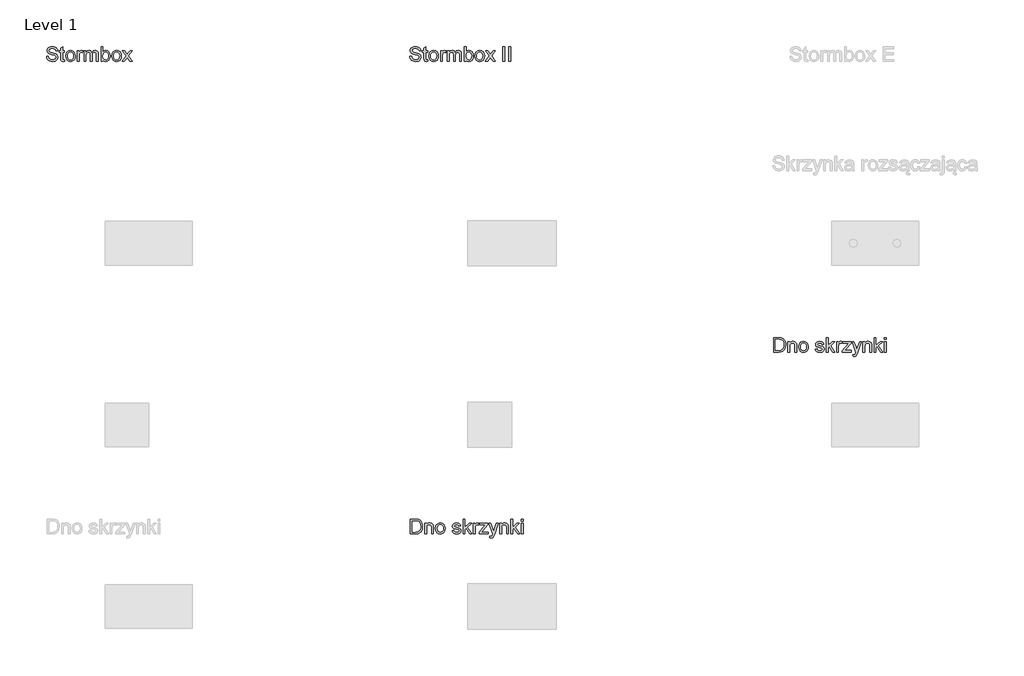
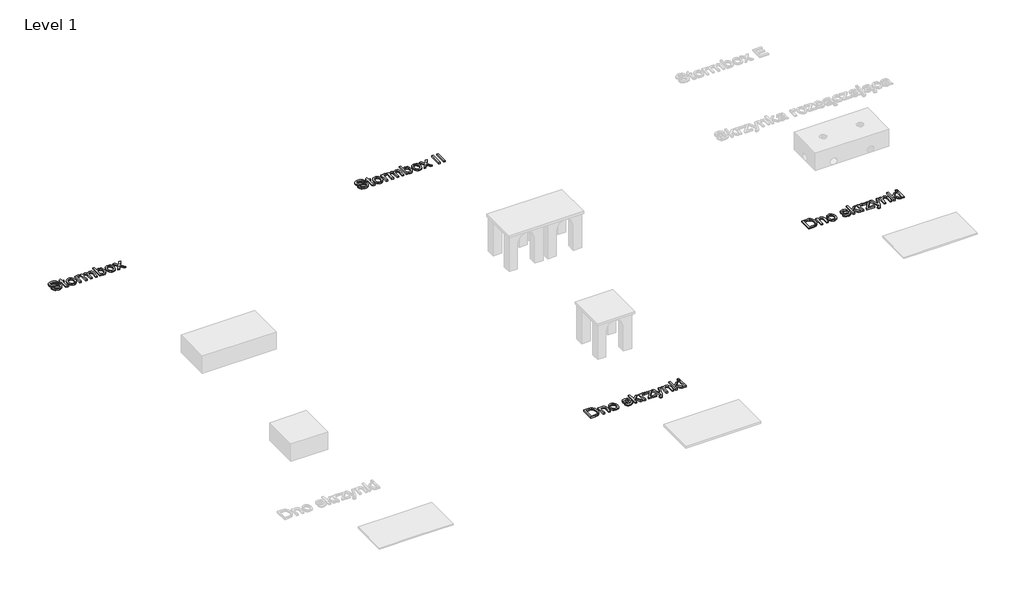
# One storey, part 4 of 5: 4 proxies.
"""IFC4 building model written with IfcOpenShell, lengths in millimetres."""

from ifc_helpers import new_model, si_unit, origin, origin_with_axes, place, context, project, spatial, polyline, outline, extrude, element, save

model = new_model("IFC4")

# Units and contexts
model_context = context("Model", 3, world=origin())
ifc_project = project(units=[si_unit("LENGTHUNIT", "METRE", prefix="MILLI")], contexts=[model_context])

# Site, building, storey
site = spatial("IfcSite", under=ifc_project)
building = spatial("IfcBuilding", under=site)
storey = spatial("IfcBuildingStorey", under=building, Name="Level 1", Elevation=0.0)

# Proxies
placement = place(None, origin())
element("IfcBuildingElementProxy", 1, Name="200mm Arial", ObjectType="200mm Arial", at=placement, inside=storey, context=model_context, shape_type="SweptSolid", body=[
    extrude(outline(polyline([(-17340.1100864, 2459.5263231), (-17314.9960089, 2459.5263231), (-17306.902605, 2434.3877201), (-17298.7724129, 2425.4972385), (-17287.1350791, 2418.4952179), (-17272.9103087, 2413.9518752), (-17257.0178065, 2412.4374277), (-17230.7755575, 2417.0236899), (-17213.8284602, 2429.6297796), (-17208.2611794, 2446.478775), (-17212.4305087, 2462.150548), (-17218.7826044, 2468.3493596), (-17229.5002332, 2473.5548898), (-17266.0677036, 2483.1443471), (-17305.431077, 2495.5297077), (-17317.9329335, 2503.9787308), (-17326.7927582, 2514.218113), (-17332.0718649, 2526.0271251), (-17333.8315671, 2539.1850377), (-17331.6549319, 2553.8941862), (-17325.1250265, 2567.6100532), (-17314.4135291, 2579.2351243), (-17299.6921179, 2587.6718847), (-17282.0215194, 2592.8038385), (-17262.46246, 2594.5144898), (-17241.2724571, 2592.7241308), (-17222.7312045, 2587.3530537), (-17207.5008899, 2578.511623), (-17196.2437009, 2566.3102035), (-17189.1190529, 2551.5090846), (-17186.2863615, 2534.8685557), (-17211.4004391, 2534.8685557), (-17216.0112267, 2549.8536156), (-17225.6252095, 2560.6693463), (-17240.6470577, 2567.2176458), (-17261.4814413, 2569.4004123), (-17282.8063343, 2567.2421712), (-17297.435775, 2560.7674481), (-17305.8970609, 2551.2393045), (-17308.7174895, 2539.9208017), (-17306.718664, 2530.2700307), (-17300.7221875, 2522.5077206), (-17286.5464679, 2515.5670137), (-17259.7156078, 2508.4791539), (-17215.2754628, 2495.8730642), (-17200.9587218, 2486.7618534), (-17190.9707256, 2475.5169271), (-17185.1030078, 2462.2609126), (-17183.1471018, 2447.1164371), (-17185.3973134, 2431.6347365), (-17192.147948, 2417.0727408), (-17203.1230942, 2404.5402275), (-17218.0468404, 2395.1469739), (-17235.9933504, 2389.2792561), (-17256.0367878, 2387.3233501), (-17280.6419619, 2389.4325402), (-17300.8938658, 2395.7601106), (-17317.0254912, 2406.3305866), (-17329.2698303, 2421.1684937), (-17337.1302423, 2439.2437624), (-17340.1100864, 2459.5263231)])), origin_with_axes(), (0.0, 0.0, 1.0), 20.0),
    extrude(outline(polyline([(-17095.2478305, 2411.4073581), (-17092.1085708, 2389.7268458), (-17110.895078, 2387.3233501), (-17131.9379281, 2391.4926794), (-17142.4348277, 2402.4310374), (-17145.4759855, 2430.9296293), (-17145.4759855, 2512.8937378), (-17164.3115437, 2512.8937378), (-17164.3115437, 2538.0078154), (-17145.4759855, 2538.0078154), (-17145.4759855, 2573.8640472), (-17120.361908, 2588.6283779), (-17120.361908, 2538.0078154), (-17095.2478305, 2538.0078154), (-17095.2478305, 2512.8937378), (-17120.361908, 2512.8937378), (-17120.361908, 2431.6653933), (-17119.0375328, 2418.7159471), (-17114.7455762, 2414.1296849), (-17106.1861884, 2412.4374277), (-17095.2478305, 2411.4073581)])), origin_with_axes(), (0.0, 0.0, 1.0), 20.0),
    extrude(outline(polyline([(-17076.4122723, 2464.2352126), (-17070.9798815, 2499.8094015), (-17064.189393, 2513.6325675), (-17054.6827091, 2524.8131145), (-17034.5473013, 2537.0635849), (-17010.4387678, 2541.1470751), (-16984.0554974, 2536.1745368), (-16962.9819905, 2521.2569219), (-16949.1680215, 2497.5714527), (-16944.5633652, 2466.2953518), (-16946.5989789, 2440.9237568), (-16952.7058201, 2421.6099521), (-16962.706079, 2407.1460583), (-16976.421946, 2396.3241963), (-16992.712987, 2389.5735617), (-17010.4387678, 2387.3233501), (-17037.1408693, 2392.2774943), (-17058.1898508, 2407.1399269), (-17071.8566669, 2431.3220368), (-17076.4122723, 2464.2352126)]), holes=[polyline([(-17051.2981948, 2464.2842635), (-17048.391927, 2441.5552876), (-17039.6731237, 2425.3623484), (-17026.5519992, 2415.6686579), (-17010.4387678, 2412.4374277), (-16994.3991128, 2415.687052), (-16981.3025138, 2425.4359248), (-16972.5837105, 2441.8434618), (-16969.6774428, 2465.0690785), (-16972.6021046, 2487.1358668), (-16981.3760902, 2503.1080768), (-16994.4910833, 2512.8017673), (-17010.4387678, 2516.0329975), (-17026.5519992, 2512.8140301), (-17039.6731237, 2503.1571277), (-17048.391927, 2487.0009767), (-17051.2981948, 2464.2842635)])]), origin_with_axes(), (0.0, 0.0, 1.0), 20.0),
    extrude(outline(polyline([(-16916.310028, 2390.4626098), (-16916.310028, 2538.0078154), (-16894.3352102, 2538.0078154), (-16894.3352102, 2516.1801503), (-16878.7370136, 2536.2910327), (-16863.0407151, 2541.1470751), (-16850.5327273, 2539.2095632), (-16837.8285357, 2533.3970277), (-16846.2162452, 2510.8826496), (-16863.874581, 2516.0329975), (-16878.074826, 2511.0788533), (-16887.1247231, 2497.3445922), (-16891.1959505, 2468.0121344), (-16891.1959505, 2390.4626098), (-16916.310028, 2390.4626098)])), origin_with_axes(), (0.0, 0.0, 1.0), 20.0),
    extrude(outline(polyline([(-16822.1322372, 2390.4626098), (-16822.1322372, 2538.0078154), (-16797.0181597, 2538.0078154), (-16797.0181597, 2513.7276037), (-16789.4643161, 2524.8805595), (-16779.7522314, 2533.6177569), (-16768.2129995, 2539.2647455), (-16755.1777141, 2541.1470751), (-16741.210461, 2539.2279573), (-16730.0145856, 2533.4706041), (-16721.6514016, 2524.2551601), (-16716.1822226, 2511.9617701), (-16707.0280923, 2524.730341), (-16696.586375, 2533.8507488), (-16684.8570707, 2539.3229935), (-16671.8401795, 2541.1470751), (-16652.9617018, 2538.1120486), (-16639.00058, 2529.0069692), (-16630.3737473, 2513.5865823), (-16627.4981363, 2491.605633), (-16627.4981363, 2390.4626098), (-16652.6122139, 2390.4626098), (-16652.6122139, 2480.8144278), (-16654.9421332, 2501.7837016), (-16663.3788936, 2512.1089229), (-16677.7262914, 2516.0329975), (-16691.3317939, 2513.5191372), (-16702.423436, 2505.9775563), (-16709.79947, 2492.89322), (-16712.258148, 2473.7510935), (-16712.258148, 2390.4626098), (-16737.3722255, 2390.4626098), (-16737.3722255, 2483.610331), (-16738.8253594, 2497.810576), (-16743.1847611, 2507.9395936), (-16750.8551007, 2514.0096465), (-16762.2410484, 2516.0329975), (-16780.8313519, 2510.6373949), (-16788.1889918, 2503.9909935), (-16793.192187, 2494.8429946), (-16797.0181597, 2464.8728747), (-16797.0181597, 2390.4626098), (-16822.1322372, 2390.4626098)])), origin_with_axes(), (0.0, 0.0, 1.0), 20.0),
    extrude(outline(polyline([(-16564.7129425, 2390.4626098), (-16589.82702, 2390.4626098), (-16589.82702, 2591.3752301), (-16564.7129425, 2591.3752301), (-16564.7129425, 2516.8668634), (-16547.1281831, 2535.0770221), (-16536.7355167, 2539.6295618), (-16525.2759926, 2541.1470751), (-16500.1128641, 2535.6778961), (-16480.5905929, 2520.3004287), (-16468.5976399, 2496.388099), (-16464.2566323, 2466.4425046), (-16468.750924, 2432.9161921), (-16482.2337992, 2407.9737928), (-16502.0197191, 2392.4859608), (-16525.4231454, 2387.3233501), (-16537.2597486, 2388.9880162), (-16547.7535825, 2393.9820143), (-16556.9046471, 2402.3053444), (-16564.7129425, 2413.9580066), (-16564.7129425, 2390.4626098)]), holes=[polyline([(-16564.7129425, 2465.2652822), (-16562.9961598, 2444.3205339), (-16557.8458119, 2430.1448144), (-16544.6878992, 2416.8642744), (-16527.5813864, 2412.4374277), (-16513.0868358, 2415.6993147), (-16500.7014753, 2425.4849758), (-16492.2034012, 2441.7330972), (-16489.3707099, 2464.3823654), (-16492.0869053, 2487.3627274), (-16500.2354915, 2503.4269078), (-16512.2345759, 2512.8814751), (-16526.5022659, 2516.0329975), (-16540.9968165, 2512.7711105), (-16553.382177, 2502.9854494), (-16561.8802511, 2487.0316336), (-16564.7129425, 2465.2652822)])]), origin_with_axes(), (0.0, 0.0, 1.0), 20.0),
    extrude(outline(polyline([(-16442.2818145, 2464.2352126), (-16436.8494237, 2499.8094015), (-16430.0589352, 2513.6325675), (-16420.5522513, 2524.8131145), (-16400.4168434, 2537.0635849), (-16376.30831, 2541.1470751), (-16349.9250396, 2536.1745368), (-16328.8515326, 2521.2569219), (-16315.0375637, 2497.5714527), (-16310.4329074, 2466.2953518), (-16312.4685211, 2440.9237568), (-16318.5753622, 2421.6099521), (-16328.5756211, 2407.1460583), (-16342.2914882, 2396.3241963), (-16358.5825292, 2389.5735617), (-16376.30831, 2387.3233501), (-16403.0104115, 2392.2774943), (-16424.059393, 2407.1399269), (-16437.7262091, 2431.3220368), (-16442.2818145, 2464.2352126)]), holes=[polyline([(-16417.1677369, 2464.2842635), (-16414.2614692, 2441.5552876), (-16405.5426659, 2425.3623484), (-16392.4215414, 2415.6686579), (-16376.30831, 2412.4374277), (-16360.268655, 2415.687052), (-16347.172056, 2425.4359248), (-16338.4532527, 2441.8434618), (-16335.546985, 2465.0690785), (-16338.4716468, 2487.1358668), (-16347.2456324, 2503.1080768), (-16360.3606255, 2512.8017673), (-16376.30831, 2516.0329975), (-16392.4215414, 2512.8140301), (-16405.5426659, 2503.1571277), (-16414.2614692, 2487.0009767), (-16417.1677369, 2464.2842635)])]), origin_with_axes(), (0.0, 0.0, 1.0), 20.0),
    extrude(outline(polyline([(-16297.8758686, 2390.4626098), (-16244.2141483, 2464.6276201), (-16294.736609, 2538.0078154), (-16264.5212344, 2538.0078154), (-16240.1429209, 2502.6911438), (-16228.7631045, 2486.0138267), (-16218.903867, 2499.649986), (-16191.1410391, 2538.0078154), (-16160.9256646, 2538.0078154), (-16213.9987737, 2464.6276201), (-16162.8877019, 2390.4626098), (-16193.1030764, 2390.4626098), (-16223.8580112, 2435.0499076), (-16229.4988685, 2443.1923625), (-16267.6604941, 2390.4626098), (-16297.8758686, 2390.4626098)])), origin_with_axes(), (0.0, 0.0, 1.0), 20.0),
])
element("IfcBuildingElementProxy", 2, Name="200mm Arial", ObjectType="200mm Arial", at=placement, inside=storey, context=model_context, shape_type="SweptSolid", body=[
    extrude(outline(polyline([(-12330.6923074, -4113.949573), (-12330.6923074, -3913.0369527), (-12261.3833395, -3913.0369527), (-12225.5271077, -3915.9309577), (-12209.5119782, -3921.5105013), (-12195.9984462, -3930.302881), (-12182.1047695, -3945.606772), (-12172.2087438, -3964.6385338), (-12166.2858437, -3987.0302846), (-12164.3115437, -4012.4141423), (-12169.6580953, -4052.9547382), (-12183.3923565, -4082.2136195), (-12201.7374053, -4100.436041), (-12225.7478369, -4110.5160077), (-12258.0478761, -4113.949573), (-12330.6923074, -4113.949573)]), holes=[polyline([(-12305.5782298, -4088.8354954), (-12261.1380848, -4088.8354954), (-12228.8135202, -4085.2057264), (-12210.1741658, -4074.9540815), (-12201.4492311, -4064.0831685), (-12194.8948002, -4050.0116822), (-12190.792916, -4032.6783089), (-12189.4256212, -4012.0217348), (-12192.1050284, -3984.6513144), (-12200.14325, -3964.4423301), (-12212.0197071, -3950.5609162), (-12226.2138207, -3942.1732067), (-12261.8247979, -3938.1510302), (-12305.5782298, -3938.1510302), (-12305.5782298, -4088.8354954)])]), origin_with_axes(), (0.0, 0.0, 1.0), 20.0),
    extrude(outline(polyline([(-12132.9189468, -4113.949573), (-12132.9189468, -3966.4043674), (-12107.8048692, -3966.4043674), (-12107.8048692, -3987.0057592), (-12099.0799346, -3976.6192242), (-12088.6014291, -3969.2002706), (-12076.3693527, -3964.7488984), (-12062.3837056, -3963.2651077), (-12038.6675796, -3968.0475737), (-12022.4807718, -3980.6046124), (-12014.9514536, -3999.0722886), (-12013.6270785, -4023.3525003), (-12013.6270785, -4113.949573), (-12038.741156, -4113.949573), (-12038.741156, -4026.7370146), (-12041.635161, -4004.5169421), (-12051.8622805, -3992.7692437), (-12069.1036833, -3988.3791853), (-12083.8128318, -3990.8439946), (-12096.3514764, -3998.2384227), (-12104.941521, -4012.5245069), (-12107.8048692, -4035.6642844), (-12107.8048692, -4113.949573), (-12132.9189468, -4113.949573)])), origin_with_axes(), (0.0, 0.0, 1.0), 20.0),
    extrude(outline(polyline([(-11985.3737412, -4040.1769702), (-11979.9413504, -4004.6027813), (-11973.1508619, -3990.7796153), (-11963.644178, -3979.5990683), (-11943.5087702, -3967.3485979), (-11919.4002368, -3963.2651077), (-11893.0169663, -3968.237646), (-11871.9434594, -3983.1552609), (-11858.1294905, -4006.8407301), (-11853.5248342, -4038.116831), (-11855.5604479, -4063.4884259), (-11861.667289, -4082.8022307), (-11871.6675479, -4097.2661245), (-11885.3834149, -4108.0879865), (-11901.674456, -4114.8386211), (-11919.4002368, -4117.0888326), (-11946.1023382, -4112.1346884), (-11967.1513197, -4097.2722558), (-11980.8181359, -4073.090146), (-11985.3737412, -4040.1769702)]), holes=[polyline([(-11960.2596637, -4040.1279193), (-11957.3533959, -4062.8568952), (-11948.6345926, -4079.0498343), (-11935.5134682, -4088.7435249), (-11919.4002368, -4091.9747551), (-11903.3605818, -4088.7251308), (-11890.2639827, -4078.9762579), (-11881.5451795, -4062.568721), (-11878.6389117, -4039.3431043), (-11881.5635736, -4017.276316), (-11890.3375591, -4001.304106), (-11903.4525523, -3991.6104155), (-11919.4002368, -3988.3791853), (-11935.5134682, -3991.5981527), (-11948.6345926, -4001.2550551), (-11957.3533959, -4017.4112061), (-11960.2596637, -4040.1279193)])]), origin_with_axes(), (0.0, 0.0, 1.0), 20.0),
    extrude(outline(polyline([(-11756.2077837, -4069.9999373), (-11731.0937062, -4066.8606776), (-11727.1328434, -4077.6028318), (-11719.4686351, -4085.500032), (-11708.0520305, -4090.3560743), (-11692.8339787, -4091.9747551), (-11677.7998678, -4090.4909644), (-11667.2293918, -4086.0395923), (-11660.9753979, -4079.5893946), (-11658.8907332, -4072.1091274), (-11660.9876606, -4065.7079807), (-11667.2784427, -4060.8274129), (-11693.1282843, -4053.6659767), (-11730.9465534, -4041.378718), (-11740.5176166, -4035.2044319), (-11747.4521922, -4027.0313202), (-11753.068524, -4006.773285), (-11748.5558382, -3988.0603542), (-11736.2440541, -3973.7620073), (-11720.2779755, -3966.330791), (-11698.6710397, -3963.2651077), (-11668.1123086, -3968.1947265), (-11656.6834413, -3973.9949993), (-11648.6881392, -3981.5365802), (-11640.0551751, -4004.0754837), (-11665.1692526, -4007.2147434), (-11668.3391692, -3999.3114119), (-11674.6115572, -3993.3578549), (-11696.7090023, -3988.3791853), (-11711.1299766, -3989.5686704), (-11720.7439594, -3993.1371257), (-11726.1518247, -3998.2874737), (-11727.9544465, -4004.2226365), (-11724.9623396, -4011.5312255), (-11715.5936114, -4017.0739809), (-11693.9621501, -4022.4205326), (-11657.1003742, -4034.2418073), (-11639.9815987, -4047.632712), (-11635.3278915, -4057.4796867), (-11633.7766557, -4069.460377), (-11635.5976716, -4081.8457375), (-11641.0607192, -4093.495334), (-11649.9573321, -4103.4955929), (-11662.0790439, -4110.9329406), (-11676.7207473, -4115.5498596), (-11693.1773352, -4117.0888326), (-11718.4998792, -4114.1212512), (-11736.9798181, -4105.2185069), (-11749.3161277, -4090.4787017), (-11756.2077837, -4069.9999373)])), origin_with_axes(), (0.0, 0.0, 1.0), 20.0),
    extrude(outline(polyline([(-11605.5233185, -4113.949573), (-11605.5233185, -3913.0369527), (-11580.4092409, -3913.0369527), (-11580.4092409, -4020.9980555), (-11524.0987702, -3966.4043674), (-11489.3707099, -3966.4043674), (-11546.3678937, -4021.6847686), (-11486.2314502, -4113.949573), (-11515.5639079, -4113.949573), (-11564.369586, -4039.1469006), (-11580.4092409, -4054.6960463), (-11580.4092409, -4113.949573), (-11605.5233185, -4113.949573)])), origin_with_axes(), (0.0, 0.0, 1.0), 20.0),
    extrude(outline(polyline([(-11464.2566323, -4113.949573), (-11464.2566323, -3966.4043674), (-11442.2818145, -3966.4043674), (-11442.2818145, -3988.2320325), (-11426.6836179, -3968.1211501), (-11410.9873194, -3963.2651077), (-11398.4793316, -3965.2026196), (-11385.77514, -3971.0151551), (-11394.1628495, -3993.5295332), (-11411.8211853, -3988.3791853), (-11426.0214303, -3993.3333295), (-11435.0713274, -4007.0675906), (-11439.1425548, -4036.4000484), (-11439.1425548, -4113.949573), (-11464.2566323, -4113.949573)])), origin_with_axes(), (0.0, 0.0, 1.0), 20.0),
    extrude(outline(polyline([(-11385.77514, -4113.949573), (-11385.77514, -4090.3070234), (-11299.102142, -3991.518445), (-11324.7557798, -3991.518445), (-11379.4966206, -3991.518445), (-11379.4966206, -3966.4043674), (-11263.344012, -3966.4043674), (-11263.344012, -3987.7415231), (-11340.2068236, -4075.3955399), (-11351.9790474, -4088.8354954), (-11322.9408952, -4088.8354954), (-11260.2047523, -4088.8354954), (-11260.2047523, -4113.949573), (-11385.77514, -4113.949573)])), origin_with_axes(), (0.0, 0.0, 1.0), 20.0),
    extrude(outline(polyline([(-11235.0906748, -4170.4562474), (-11238.2299345, -4146.2741376), (-11225.476692, -4148.4814296), (-11213.5573154, -4145.7100519), (-11206.2487264, -4137.98453), (-11199.3815958, -4119.4923283), (-11197.4195585, -4113.4100127), (-11250.7869733, -3966.4043674), (-11224.2994696, -3966.4043674), (-11195.9970814, -4048.319425), (-11186.137844, -4081.0854481), (-11176.2786065, -4052.1453978), (-11147.1914034, -3966.4043674), (-11120.9001035, -3966.4043674), (-11172.25643, -4117.4812401), (-11185.5982837, -4150.2472631), (-11200.1664107, -4167.9546498), (-11219.7377329, -4173.5955071), (-11235.0906748, -4170.4562474)])), origin_with_axes(), (0.0, 0.0, 1.0), 20.0),
    extrude(outline(polyline([(-11100.102508, -4113.949573), (-11100.102508, -3966.4043674), (-11074.9884305, -3966.4043674), (-11074.9884305, -3987.0057592), (-11066.2634958, -3976.6192242), (-11055.7849904, -3969.2002706), (-11043.552914, -3964.7488984), (-11029.5672668, -3963.2651077), (-11005.8511409, -3968.0475737), (-10989.6643331, -3980.6046124), (-10982.1350149, -3999.0722886), (-10980.8106397, -4023.3525003), (-10980.8106397, -4113.949573), (-11005.9247173, -4113.949573), (-11005.9247173, -4026.7370146), (-11008.8187223, -4004.5169421), (-11019.0458418, -3992.7692437), (-11036.2872446, -3988.3791853), (-11050.996393, -3990.8439946), (-11063.5350377, -3998.2384227), (-11072.1250823, -4012.5245069), (-11074.9884305, -4035.6642844), (-11074.9884305, -4113.949573), (-11100.102508, -4113.949573)])), origin_with_axes(), (0.0, 0.0, 1.0), 20.0),
    extrude(outline(polyline([(-10946.2787831, -4113.949573), (-10946.2787831, -3913.0369527), (-10921.1647056, -3913.0369527), (-10921.1647056, -4020.9980555), (-10864.8542349, -3966.4043674), (-10830.1261745, -3966.4043674), (-10887.1233583, -4021.6847686), (-10826.9869148, -4113.949573), (-10856.3193726, -4113.949573), (-10905.1250506, -4039.1469006), (-10921.1647056, -4054.6960463), (-10921.1647056, -4113.949573), (-10946.2787831, -4113.949573)])), origin_with_axes(), (0.0, 0.0, 1.0), 20.0),
    extrude(outline(polyline([(-10805.012097, -3938.1510302), (-10805.012097, -3913.0369527), (-10779.8980194, -3913.0369527), (-10779.8980194, -3938.1510302), (-10805.012097, -3938.1510302)])), origin_with_axes(), (0.0, 0.0, 1.0), 20.0),
    extrude(outline(polyline([(-10805.012097, -4113.949573), (-10805.012097, -3966.4043674), (-10779.8980194, -3966.4043674), (-10779.8980194, -4113.949573), (-10805.012097, -4113.949573)])), origin_with_axes(), (0.0, 0.0, 1.0), 20.0),
])
element("IfcBuildingElementProxy", 3, Name="200mm Arial", ObjectType="200mm Arial", at=placement, inside=storey, context=model_context, shape_type="SweptSolid", body=[
    extrude(outline(polyline([(-12340.1100864, 2459.5263231), (-12314.9960089, 2459.5263231), (-12306.902605, 2434.3877201), (-12298.7724129, 2425.4972385), (-12287.1350791, 2418.4952179), (-12272.9103087, 2413.9518752), (-12257.0178065, 2412.4374277), (-12230.7755575, 2417.0236899), (-12213.8284602, 2429.6297796), (-12208.2611794, 2446.478775), (-12212.4305087, 2462.150548), (-12218.7826044, 2468.3493596), (-12229.5002332, 2473.5548898), (-12266.0677036, 2483.1443471), (-12305.431077, 2495.5297077), (-12317.9329335, 2503.9787308), (-12326.7927582, 2514.218113), (-12332.0718649, 2526.0271251), (-12333.8315671, 2539.1850377), (-12331.6549319, 2553.8941862), (-12325.1250265, 2567.6100532), (-12314.4135291, 2579.2351243), (-12299.6921179, 2587.6718847), (-12282.0215194, 2592.8038385), (-12262.46246, 2594.5144898), (-12241.2724571, 2592.7241308), (-12222.7312045, 2587.3530537), (-12207.5008899, 2578.511623), (-12196.2437009, 2566.3102035), (-12189.1190529, 2551.5090846), (-12186.2863615, 2534.8685557), (-12211.4004391, 2534.8685557), (-12216.0112267, 2549.8536156), (-12225.6252095, 2560.6693463), (-12240.6470577, 2567.2176458), (-12261.4814413, 2569.4004123), (-12282.8063343, 2567.2421712), (-12297.435775, 2560.7674481), (-12305.8970609, 2551.2393045), (-12308.7174895, 2539.9208017), (-12306.718664, 2530.2700307), (-12300.7221875, 2522.5077206), (-12286.5464679, 2515.5670137), (-12259.7156078, 2508.4791539), (-12215.2754628, 2495.8730642), (-12200.9587218, 2486.7618534), (-12190.9707256, 2475.5169271), (-12185.1030078, 2462.2609126), (-12183.1471018, 2447.1164371), (-12185.3973134, 2431.6347365), (-12192.147948, 2417.0727408), (-12203.1230942, 2404.5402275), (-12218.0468404, 2395.1469739), (-12235.9933504, 2389.2792561), (-12256.0367878, 2387.3233501), (-12280.6419619, 2389.4325402), (-12300.8938658, 2395.7601106), (-12317.0254912, 2406.3305866), (-12329.2698303, 2421.1684937), (-12337.1302423, 2439.2437624), (-12340.1100864, 2459.5263231)])), origin_with_axes(), (0.0, 0.0, 1.0), 20.0),
    extrude(outline(polyline([(-12095.2478305, 2411.4073581), (-12092.1085708, 2389.7268458), (-12110.895078, 2387.3233501), (-12131.9379281, 2391.4926794), (-12142.4348277, 2402.4310374), (-12145.4759855, 2430.9296293), (-12145.4759855, 2512.8937378), (-12164.3115437, 2512.8937378), (-12164.3115437, 2538.0078154), (-12145.4759855, 2538.0078154), (-12145.4759855, 2573.8640472), (-12120.361908, 2588.6283779), (-12120.361908, 2538.0078154), (-12095.2478305, 2538.0078154), (-12095.2478305, 2512.8937378), (-12120.361908, 2512.8937378), (-12120.361908, 2431.6653933), (-12119.0375328, 2418.7159471), (-12114.7455762, 2414.1296849), (-12106.1861884, 2412.4374277), (-12095.2478305, 2411.4073581)])), origin_with_axes(), (0.0, 0.0, 1.0), 20.0),
    extrude(outline(polyline([(-12076.4122723, 2464.2352126), (-12070.9798815, 2499.8094015), (-12064.189393, 2513.6325675), (-12054.6827091, 2524.8131145), (-12034.5473013, 2537.0635849), (-12010.4387678, 2541.1470751), (-11984.0554974, 2536.1745368), (-11962.9819905, 2521.2569219), (-11949.1680215, 2497.5714527), (-11944.5633652, 2466.2953518), (-11946.5989789, 2440.9237568), (-11952.7058201, 2421.6099521), (-11962.706079, 2407.1460583), (-11976.421946, 2396.3241963), (-11992.712987, 2389.5735617), (-12010.4387678, 2387.3233501), (-12037.1408693, 2392.2774943), (-12058.1898508, 2407.1399269), (-12071.8566669, 2431.3220368), (-12076.4122723, 2464.2352126)]), holes=[polyline([(-12051.2981948, 2464.2842635), (-12048.391927, 2441.5552876), (-12039.6731237, 2425.3623484), (-12026.5519992, 2415.6686579), (-12010.4387678, 2412.4374277), (-11994.3991128, 2415.687052), (-11981.3025138, 2425.4359248), (-11972.5837105, 2441.8434618), (-11969.6774428, 2465.0690785), (-11972.6021046, 2487.1358668), (-11981.3760902, 2503.1080768), (-11994.4910833, 2512.8017673), (-12010.4387678, 2516.0329975), (-12026.5519992, 2512.8140301), (-12039.6731237, 2503.1571277), (-12048.391927, 2487.0009767), (-12051.2981948, 2464.2842635)])]), origin_with_axes(), (0.0, 0.0, 1.0), 20.0),
    extrude(outline(polyline([(-11916.310028, 2390.4626098), (-11916.310028, 2538.0078154), (-11894.3352102, 2538.0078154), (-11894.3352102, 2516.1801503), (-11878.7370136, 2536.2910327), (-11863.0407151, 2541.1470751), (-11850.5327273, 2539.2095632), (-11837.8285357, 2533.3970277), (-11846.2162452, 2510.8826496), (-11863.874581, 2516.0329975), (-11878.074826, 2511.0788533), (-11887.1247231, 2497.3445922), (-11891.1959505, 2468.0121344), (-11891.1959505, 2390.4626098), (-11916.310028, 2390.4626098)])), origin_with_axes(), (0.0, 0.0, 1.0), 20.0),
    extrude(outline(polyline([(-11822.1322372, 2390.4626098), (-11822.1322372, 2538.0078154), (-11797.0181597, 2538.0078154), (-11797.0181597, 2513.7276037), (-11789.4643161, 2524.8805595), (-11779.7522314, 2533.6177569), (-11768.2129995, 2539.2647455), (-11755.1777141, 2541.1470751), (-11741.210461, 2539.2279573), (-11730.0145856, 2533.4706041), (-11721.6514016, 2524.2551601), (-11716.1822226, 2511.9617701), (-11707.0280923, 2524.730341), (-11696.586375, 2533.8507488), (-11684.8570707, 2539.3229935), (-11671.8401795, 2541.1470751), (-11652.9617018, 2538.1120486), (-11639.00058, 2529.0069692), (-11630.3737473, 2513.5865823), (-11627.4981363, 2491.605633), (-11627.4981363, 2390.4626098), (-11652.6122139, 2390.4626098), (-11652.6122139, 2480.8144278), (-11654.9421332, 2501.7837016), (-11663.3788936, 2512.1089229), (-11677.7262914, 2516.0329975), (-11691.3317939, 2513.5191372), (-11702.423436, 2505.9775563), (-11709.79947, 2492.89322), (-11712.258148, 2473.7510935), (-11712.258148, 2390.4626098), (-11737.3722255, 2390.4626098), (-11737.3722255, 2483.610331), (-11738.8253594, 2497.810576), (-11743.1847611, 2507.9395936), (-11750.8551007, 2514.0096465), (-11762.2410484, 2516.0329975), (-11780.8313519, 2510.6373949), (-11788.1889918, 2503.9909935), (-11793.192187, 2494.8429946), (-11797.0181597, 2464.8728747), (-11797.0181597, 2390.4626098), (-11822.1322372, 2390.4626098)])), origin_with_axes(), (0.0, 0.0, 1.0), 20.0),
    extrude(outline(polyline([(-11564.7129425, 2390.4626098), (-11589.82702, 2390.4626098), (-11589.82702, 2591.3752301), (-11564.7129425, 2591.3752301), (-11564.7129425, 2516.8668634), (-11547.1281831, 2535.0770221), (-11536.7355167, 2539.6295618), (-11525.2759926, 2541.1470751), (-11500.1128641, 2535.6778961), (-11480.5905929, 2520.3004287), (-11468.5976399, 2496.388099), (-11464.2566323, 2466.4425046), (-11468.750924, 2432.9161921), (-11482.2337992, 2407.9737928), (-11502.0197191, 2392.4859608), (-11525.4231454, 2387.3233501), (-11537.2597486, 2388.9880162), (-11547.7535825, 2393.9820143), (-11556.9046471, 2402.3053444), (-11564.7129425, 2413.9580066), (-11564.7129425, 2390.4626098)]), holes=[polyline([(-11564.7129425, 2465.2652822), (-11562.9961598, 2444.3205339), (-11557.8458119, 2430.1448144), (-11544.6878992, 2416.8642744), (-11527.5813864, 2412.4374277), (-11513.0868358, 2415.6993147), (-11500.7014753, 2425.4849758), (-11492.2034012, 2441.7330972), (-11489.3707099, 2464.3823654), (-11492.0869053, 2487.3627274), (-11500.2354915, 2503.4269078), (-11512.2345759, 2512.8814751), (-11526.5022659, 2516.0329975), (-11540.9968165, 2512.7711105), (-11553.382177, 2502.9854494), (-11561.8802511, 2487.0316336), (-11564.7129425, 2465.2652822)])]), origin_with_axes(), (0.0, 0.0, 1.0), 20.0),
    extrude(outline(polyline([(-11442.2818145, 2464.2352126), (-11436.8494237, 2499.8094015), (-11430.0589352, 2513.6325675), (-11420.5522513, 2524.8131145), (-11400.4168434, 2537.0635849), (-11376.30831, 2541.1470751), (-11349.9250396, 2536.1745368), (-11328.8515326, 2521.2569219), (-11315.0375637, 2497.5714527), (-11310.4329074, 2466.2953518), (-11312.4685211, 2440.9237568), (-11318.5753622, 2421.6099521), (-11328.5756211, 2407.1460583), (-11342.2914882, 2396.3241963), (-11358.5825292, 2389.5735617), (-11376.30831, 2387.3233501), (-11403.0104115, 2392.2774943), (-11424.059393, 2407.1399269), (-11437.7262091, 2431.3220368), (-11442.2818145, 2464.2352126)]), holes=[polyline([(-11417.1677369, 2464.2842635), (-11414.2614692, 2441.5552876), (-11405.5426659, 2425.3623484), (-11392.4215414, 2415.6686579), (-11376.30831, 2412.4374277), (-11360.268655, 2415.687052), (-11347.172056, 2425.4359248), (-11338.4532527, 2441.8434618), (-11335.546985, 2465.0690785), (-11338.4716468, 2487.1358668), (-11347.2456324, 2503.1080768), (-11360.3606255, 2512.8017673), (-11376.30831, 2516.0329975), (-11392.4215414, 2512.8140301), (-11405.5426659, 2503.1571277), (-11414.2614692, 2487.0009767), (-11417.1677369, 2464.2842635)])]), origin_with_axes(), (0.0, 0.0, 1.0), 20.0),
    extrude(outline(polyline([(-11297.8758686, 2390.4626098), (-11244.2141483, 2464.6276201), (-11294.736609, 2538.0078154), (-11264.5212344, 2538.0078154), (-11240.1429209, 2502.6911438), (-11228.7631045, 2486.0138267), (-11218.903867, 2499.649986), (-11191.1410391, 2538.0078154), (-11160.9256646, 2538.0078154), (-11213.9987737, 2464.6276201), (-11162.8877019, 2390.4626098), (-11193.1030764, 2390.4626098), (-11223.8580112, 2435.0499076), (-11229.4988685, 2443.1923625), (-11267.6604941, 2390.4626098), (-11297.8758686, 2390.4626098)])), origin_with_axes(), (0.0, 0.0, 1.0), 20.0),
    extrude(outline(polyline([(-11056.1528723, 2390.4626098), (-11056.1528723, 2591.3752301), (-11031.0387948, 2591.3752301), (-11031.0387948, 2390.4626098), (-11056.1528723, 2390.4626098)])), origin_with_axes(), (0.0, 0.0, 1.0), 20.0),
    extrude(outline(polyline([(-10977.67138, 2390.4626098), (-10977.67138, 2591.3752301), (-10952.5573025, 2591.3752301), (-10952.5573025, 2390.4626098), (-10977.67138, 2390.4626098)])), origin_with_axes(), (0.0, 0.0, 1.0), 20.0),
])
element("IfcBuildingElementProxy", 4, Name="200mm Arial", ObjectType="200mm Arial", at=placement, inside=storey, context=model_context, shape_type="SweptSolid", body=[
    extrude(outline(polyline([(-7330.6923074, -1613.949573), (-7330.6923074, -1413.0369527), (-7261.3833395, -1413.0369527), (-7225.5271077, -1415.9309577), (-7209.5119782, -1421.5105013), (-7195.9984462, -1430.302881), (-7182.1047695, -1445.606772), (-7172.2087438, -1464.6385338), (-7166.2858437, -1487.0302846), (-7164.3115437, -1512.4141423), (-7169.6580953, -1552.9547382), (-7183.3923565, -1582.2136195), (-7201.7374053, -1600.436041), (-7225.7478369, -1610.5160077), (-7258.0478761, -1613.949573), (-7330.6923074, -1613.949573)]), holes=[polyline([(-7305.5782298, -1588.8354954), (-7261.1380848, -1588.8354954), (-7228.8135202, -1585.2057264), (-7210.1741658, -1574.9540815), (-7201.4492311, -1564.0831685), (-7194.8948002, -1550.0116822), (-7190.792916, -1532.6783089), (-7189.4256212, -1512.0217348), (-7192.1050284, -1484.6513144), (-7200.14325, -1464.4423301), (-7212.0197071, -1450.5609162), (-7226.2138207, -1442.1732067), (-7261.8247979, -1438.1510302), (-7305.5782298, -1438.1510302), (-7305.5782298, -1588.8354954)])]), origin_with_axes(), (0.0, 0.0, 1.0), 20.0),
    extrude(outline(polyline([(-7132.9189468, -1613.949573), (-7132.9189468, -1466.4043674), (-7107.8048692, -1466.4043674), (-7107.8048692, -1487.0057592), (-7099.0799346, -1476.6192242), (-7088.6014291, -1469.2002706), (-7076.3693527, -1464.7488984), (-7062.3837056, -1463.2651077), (-7038.6675796, -1468.0475737), (-7022.4807718, -1480.6046124), (-7014.9514536, -1499.0722886), (-7013.6270785, -1523.3525003), (-7013.6270785, -1613.949573), (-7038.741156, -1613.949573), (-7038.741156, -1526.7370146), (-7041.635161, -1504.5169421), (-7051.8622805, -1492.7692437), (-7069.1036833, -1488.3791853), (-7083.8128318, -1490.8439946), (-7096.3514764, -1498.2384227), (-7104.941521, -1512.5245069), (-7107.8048692, -1535.6642844), (-7107.8048692, -1613.949573), (-7132.9189468, -1613.949573)])), origin_with_axes(), (0.0, 0.0, 1.0), 20.0),
    extrude(outline(polyline([(-6985.3737412, -1540.1769702), (-6979.9413504, -1504.6027813), (-6973.1508619, -1490.7796153), (-6963.644178, -1479.5990683), (-6943.5087702, -1467.3485979), (-6919.4002368, -1463.2651077), (-6893.0169663, -1468.237646), (-6871.9434594, -1483.1552609), (-6858.1294905, -1506.8407301), (-6853.5248342, -1538.116831), (-6855.5604479, -1563.4884259), (-6861.667289, -1582.8022307), (-6871.6675479, -1597.2661245), (-6885.3834149, -1608.0879865), (-6901.674456, -1614.8386211), (-6919.4002368, -1617.0888326), (-6946.1023382, -1612.1346884), (-6967.1513197, -1597.2722558), (-6980.8181359, -1573.090146), (-6985.3737412, -1540.1769702)]), holes=[polyline([(-6960.2596637, -1540.1279193), (-6957.3533959, -1562.8568952), (-6948.6345926, -1579.0498343), (-6935.5134682, -1588.7435249), (-6919.4002368, -1591.9747551), (-6903.3605818, -1588.7251308), (-6890.2639827, -1578.9762579), (-6881.5451795, -1562.568721), (-6878.6389117, -1539.3431043), (-6881.5635736, -1517.276316), (-6890.3375591, -1501.304106), (-6903.4525523, -1491.6104155), (-6919.4002368, -1488.3791853), (-6935.5134682, -1491.5981527), (-6948.6345926, -1501.2550551), (-6957.3533959, -1517.4112061), (-6960.2596637, -1540.1279193)])]), origin_with_axes(), (0.0, 0.0, 1.0), 20.0),
    extrude(outline(polyline([(-6756.2077837, -1569.9999373), (-6731.0937062, -1566.8606776), (-6727.1328434, -1577.6028318), (-6719.4686351, -1585.500032), (-6708.0520305, -1590.3560743), (-6692.8339787, -1591.9747551), (-6677.7998678, -1590.4909644), (-6667.2293918, -1586.0395923), (-6660.9753979, -1579.5893946), (-6658.8907332, -1572.1091274), (-6660.9876606, -1565.7079807), (-6667.2784427, -1560.8274129), (-6693.1282843, -1553.6659767), (-6730.9465534, -1541.378718), (-6740.5176166, -1535.2044319), (-6747.4521922, -1527.0313202), (-6753.068524, -1506.773285), (-6748.5558382, -1488.0603542), (-6736.2440541, -1473.7620073), (-6720.2779755, -1466.330791), (-6698.6710397, -1463.2651077), (-6668.1123086, -1468.1947265), (-6656.6834413, -1473.9949993), (-6648.6881392, -1481.5365802), (-6640.0551751, -1504.0754837), (-6665.1692526, -1507.2147434), (-6668.3391692, -1499.3114119), (-6674.6115572, -1493.3578549), (-6696.7090023, -1488.3791853), (-6711.1299766, -1489.5686704), (-6720.7439594, -1493.1371257), (-6726.1518247, -1498.2874737), (-6727.9544465, -1504.2226365), (-6724.9623396, -1511.5312255), (-6715.5936114, -1517.0739809), (-6693.9621501, -1522.4205326), (-6657.1003742, -1534.2418073), (-6639.9815987, -1547.632712), (-6635.3278915, -1557.4796867), (-6633.7766557, -1569.460377), (-6635.5976716, -1581.8457375), (-6641.0607192, -1593.495334), (-6649.9573321, -1603.4955929), (-6662.0790439, -1610.9329406), (-6676.7207473, -1615.5498596), (-6693.1773352, -1617.0888326), (-6718.4998792, -1614.1212512), (-6736.9798181, -1605.2185069), (-6749.3161277, -1590.4787017), (-6756.2077837, -1569.9999373)])), origin_with_axes(), (0.0, 0.0, 1.0), 20.0),
    extrude(outline(polyline([(-6605.5233185, -1613.949573), (-6605.5233185, -1413.0369527), (-6580.4092409, -1413.0369527), (-6580.4092409, -1520.9980555), (-6524.0987702, -1466.4043674), (-6489.3707099, -1466.4043674), (-6546.3678937, -1521.6847686), (-6486.2314502, -1613.949573), (-6515.5639079, -1613.949573), (-6564.369586, -1539.1469006), (-6580.4092409, -1554.6960463), (-6580.4092409, -1613.949573), (-6605.5233185, -1613.949573)])), origin_with_axes(), (0.0, 0.0, 1.0), 20.0),
    extrude(outline(polyline([(-6464.2566323, -1613.949573), (-6464.2566323, -1466.4043674), (-6442.2818145, -1466.4043674), (-6442.2818145, -1488.2320325), (-6426.6836179, -1468.1211501), (-6410.9873194, -1463.2651077), (-6398.4793316, -1465.2026196), (-6385.77514, -1471.0151551), (-6394.1628495, -1493.5295332), (-6411.8211853, -1488.3791853), (-6426.0214303, -1493.3333295), (-6435.0713274, -1507.0675906), (-6439.1425548, -1536.4000484), (-6439.1425548, -1613.949573), (-6464.2566323, -1613.949573)])), origin_with_axes(), (0.0, 0.0, 1.0), 20.0),
    extrude(outline(polyline([(-6385.77514, -1613.949573), (-6385.77514, -1590.3070234), (-6299.102142, -1491.518445), (-6324.7557798, -1491.518445), (-6379.4966206, -1491.518445), (-6379.4966206, -1466.4043674), (-6263.344012, -1466.4043674), (-6263.344012, -1487.7415231), (-6340.2068236, -1575.3955399), (-6351.9790474, -1588.8354954), (-6322.9408952, -1588.8354954), (-6260.2047523, -1588.8354954), (-6260.2047523, -1613.949573), (-6385.77514, -1613.949573)])), origin_with_axes(), (0.0, 0.0, 1.0), 20.0),
    extrude(outline(polyline([(-6235.0906748, -1670.4562474), (-6238.2299345, -1646.2741376), (-6225.476692, -1648.4814296), (-6213.5573154, -1645.7100519), (-6206.2487264, -1637.98453), (-6199.3815958, -1619.4923283), (-6197.4195585, -1613.4100127), (-6250.7869733, -1466.4043674), (-6224.2994696, -1466.4043674), (-6195.9970814, -1548.319425), (-6186.137844, -1581.0854481), (-6176.2786065, -1552.1453978), (-6147.1914034, -1466.4043674), (-6120.9001035, -1466.4043674), (-6172.25643, -1617.4812401), (-6185.5982837, -1650.2472631), (-6200.1664107, -1667.9546498), (-6219.7377329, -1673.5955071), (-6235.0906748, -1670.4562474)])), origin_with_axes(), (0.0, 0.0, 1.0), 20.0),
    extrude(outline(polyline([(-6100.102508, -1613.949573), (-6100.102508, -1466.4043674), (-6074.9884305, -1466.4043674), (-6074.9884305, -1487.0057592), (-6066.2634958, -1476.6192242), (-6055.7849904, -1469.2002706), (-6043.552914, -1464.7488984), (-6029.5672668, -1463.2651077), (-6005.8511409, -1468.0475737), (-5989.6643331, -1480.6046124), (-5982.1350149, -1499.0722886), (-5980.8106397, -1523.3525003), (-5980.8106397, -1613.949573), (-6005.9247173, -1613.949573), (-6005.9247173, -1526.7370146), (-6008.8187223, -1504.5169421), (-6019.0458418, -1492.7692437), (-6036.2872446, -1488.3791853), (-6050.996393, -1490.8439946), (-6063.5350377, -1498.2384227), (-6072.1250823, -1512.5245069), (-6074.9884305, -1535.6642844), (-6074.9884305, -1613.949573), (-6100.102508, -1613.949573)])), origin_with_axes(), (0.0, 0.0, 1.0), 20.0),
    extrude(outline(polyline([(-5946.2787831, -1613.949573), (-5946.2787831, -1413.0369527), (-5921.1647056, -1413.0369527), (-5921.1647056, -1520.9980555), (-5864.8542349, -1466.4043674), (-5830.1261745, -1466.4043674), (-5887.1233583, -1521.6847686), (-5826.9869148, -1613.949573), (-5856.3193726, -1613.949573), (-5905.1250506, -1539.1469006), (-5921.1647056, -1554.6960463), (-5921.1647056, -1613.949573), (-5946.2787831, -1613.949573)])), origin_with_axes(), (0.0, 0.0, 1.0), 20.0),
    extrude(outline(polyline([(-5805.012097, -1438.1510302), (-5805.012097, -1413.0369527), (-5779.8980194, -1413.0369527), (-5779.8980194, -1438.1510302), (-5805.012097, -1438.1510302)])), origin_with_axes(), (0.0, 0.0, 1.0), 20.0),
    extrude(outline(polyline([(-5805.012097, -1613.949573), (-5805.012097, -1466.4043674), (-5779.8980194, -1466.4043674), (-5779.8980194, -1613.949573), (-5805.012097, -1613.949573)])), origin_with_axes(), (0.0, 0.0, 1.0), 20.0),
])

save(model, "model.ifc")
